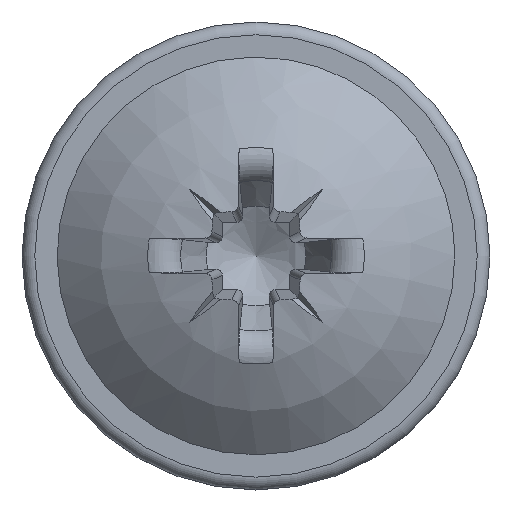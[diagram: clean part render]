
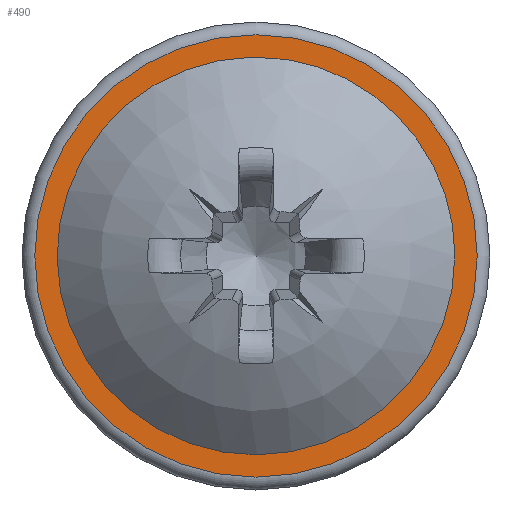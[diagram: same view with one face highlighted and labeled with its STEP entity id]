
A CAD part, top view. The second image highlights one B-rep face of the part: STEP entity #490.
In plain terms, the highlighted planar face has unit normal (0, 0, 1).
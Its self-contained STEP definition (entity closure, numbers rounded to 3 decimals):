
#146=PLANE('',#2627);
#464=FACE_BOUND('',#822,.T.);
#465=FACE_BOUND('',#823,.T.);
#490=ADVANCED_FACE('',(#464,#465),#146,.F.);
#822=EDGE_LOOP('',(#1138));
#823=EDGE_LOOP('',(#1139));
#984=CIRCLE('',#2585,4.675);
#1019=CIRCLE('',#2626,5.2);
#1138=ORIENTED_EDGE('',*,*,#2113,.T.);
#1139=ORIENTED_EDGE('',*,*,#2062,.F.);
#1834=VERTEX_POINT('',#5522);
#1883=VERTEX_POINT('',#5832);
#2062=EDGE_CURVE('',#1834,#1834,#984,.T.);
#2113=EDGE_CURVE('',#1883,#1883,#1019,.T.);
#2585=AXIS2_PLACEMENT_3D('',#5521,#2696,#2697);
#2626=AXIS2_PLACEMENT_3D('',#5831,#2779,#2780);
#2627=AXIS2_PLACEMENT_3D('',#5833,#2781,#2782);
#2696=DIRECTION('',(0.,0.,1.));
#2697=DIRECTION('',(1.,0.,0.));
#2779=DIRECTION('',(0.,0.,1.));
#2780=DIRECTION('',(-1.,0.,0.));
#2781=DIRECTION('',(0.,0.,-1.));
#2782=DIRECTION('',(-1.,0.,0.));
#5521=CARTESIAN_POINT('',(0.,0.,1.2));
#5522=CARTESIAN_POINT('',(4.675,0.,1.2));
#5831=CARTESIAN_POINT('',(0.,0.,1.2));
#5832=CARTESIAN_POINT('',(-5.2,0.,1.2));
#5833=CARTESIAN_POINT('',(0.,5.5,1.2));
